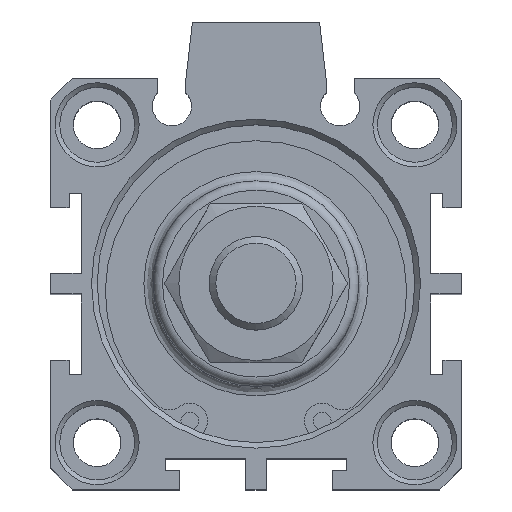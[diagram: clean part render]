
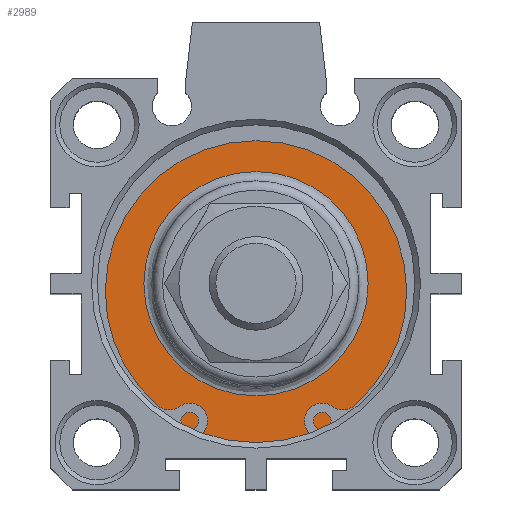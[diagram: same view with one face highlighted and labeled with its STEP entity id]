
A CAD part, top view. The second image highlights one B-rep face of the part: STEP entity #2989.
In plain terms, the highlighted planar face has unit normal (0, 0, 1).
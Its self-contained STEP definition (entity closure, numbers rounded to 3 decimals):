
#2938=CARTESIAN_POINT('',(2.273,12.598,40.8));
#2939=VERTEX_POINT('',#2938);
#2940=CARTESIAN_POINT('',(2.273,0.598,40.8));
#2941=DIRECTION('',(0.0,0.0,1.0));
#2942=DIRECTION('',(0.0,-1.0,0.0));
#2943=AXIS2_PLACEMENT_3D('',#2940,#2941,#2942);
#2944=CIRCLE('',#2943,12.0);
#2945=EDGE_CURVE('',#2939,#2939,#2944,.T.);
#2970=CARTESIAN_POINT('',(2.273,14.598,40.8));
#2971=DIRECTION('',(0.0,0.0,1.0));
#2972=DIRECTION('',(1.0,0.0,0.0));
#2973=AXIS2_PLACEMENT_3D('',#2970,#2971,#2972);
#2974=PLANE('',#2973);
#2975=CARTESIAN_POINT('',(2.273,17.598,40.8));
#2976=VERTEX_POINT('',#2975);
#2977=CARTESIAN_POINT('',(2.273,0.598,40.8));
#2978=DIRECTION('',(0.0,0.0,-1.0));
#2979=DIRECTION('',(0.0,1.0,0.0));
#2980=AXIS2_PLACEMENT_3D('',#2977,#2978,#2979);
#2981=CIRCLE('',#2980,17.);
#2982=EDGE_CURVE('',#2976,#2976,#2981,.T.);
#2983=ORIENTED_EDGE('',*,*,#2982,.F.);
#2984=EDGE_LOOP('',(#2983));
#2985=FACE_OUTER_BOUND('',#2984,.T.);
#2986=ORIENTED_EDGE('',*,*,#2945,.F.);
#2987=EDGE_LOOP('',(#2986));
#2988=FACE_BOUND('',#2987,.T.);
#2989=ADVANCED_FACE('',(#2985,#2988),#2974,.T.);
